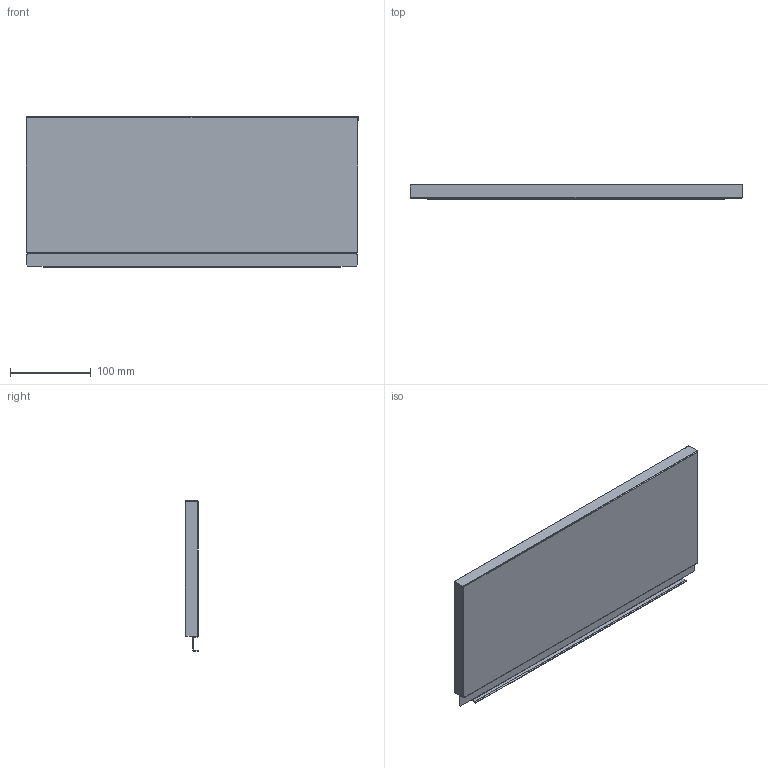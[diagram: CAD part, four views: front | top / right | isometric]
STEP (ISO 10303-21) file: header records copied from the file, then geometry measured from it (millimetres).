
FILE_DESCRIPTION (( 'STEP AP214' ), '1' );
FILE_NAME ('_STRW_H186_KAB_500.step', '2010-08-24T14:40:24', ( 'grass' ), ( '' ), 'SwSTEP 2.0', 'SolidWorks 2009', '' );
FILE_SCHEMA (( 'AUTOMOTIVE_DESIGN' ));
Length unit declared in the file: millimetre
Products named in the file (1): _STRW_H186_KAB_500
Bounding box: 410 x 17 x 186.14 mm (x, y, z)
Volume: 75006.6 mm3; surface area: 188592.1 mm2
Topology: 1 solids, 1 shells, 76 faces, 214 edges, 140 vertices
Faces by surface type: plane 54, cylinder 22
Entity records: 2472 total; most frequent: CARTESIAN_POINT 431, ORIENTED_EDGE 428, DIRECTION 412, EDGE_CURVE 214, LINE 170, VECTOR 170, VERTEX_POINT 140, AXIS2_PLACEMENT_3D 121
